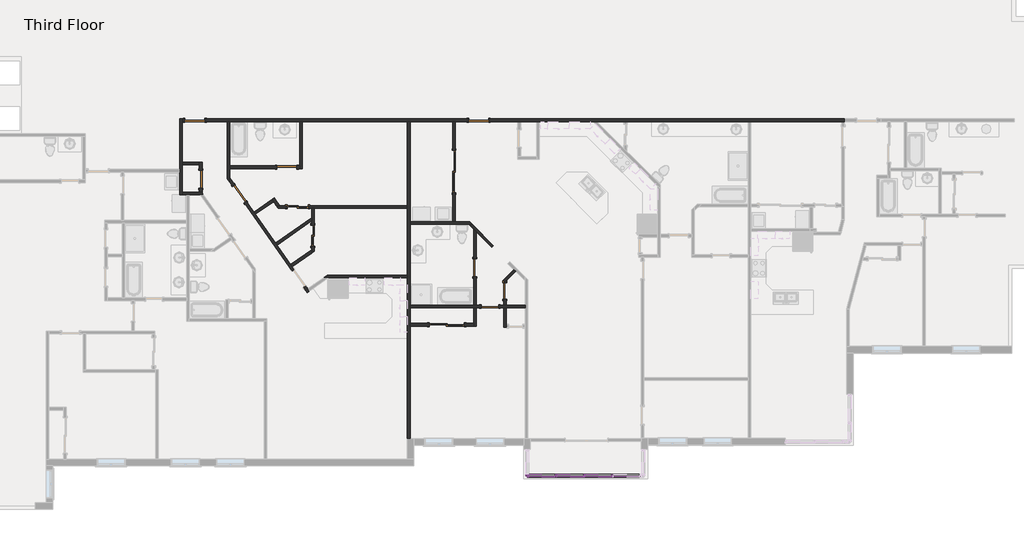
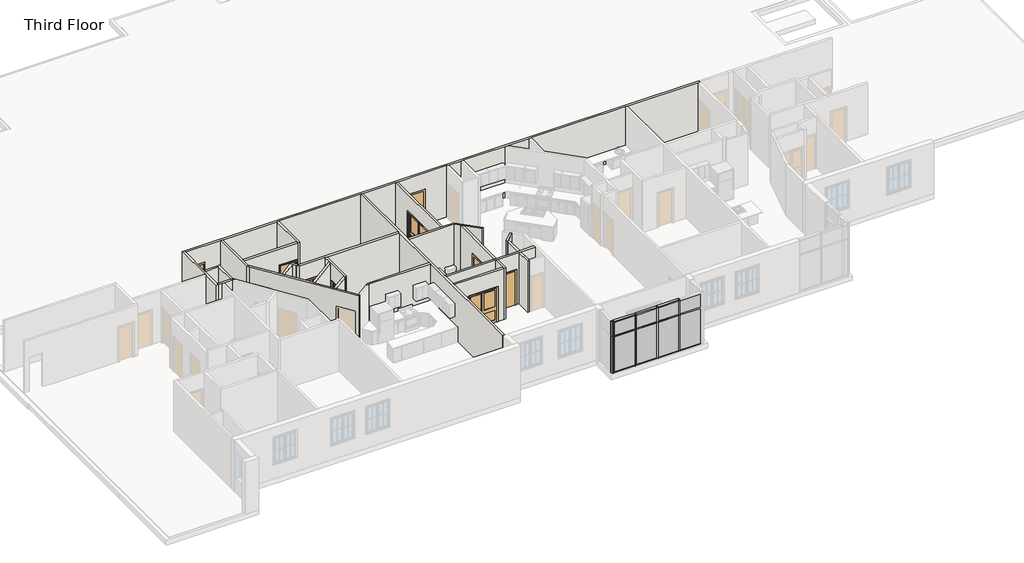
# One storey, part 3 of 17: 27 walls, 20 members, 12 doors, 8 plates.
"""IFC4 building model written with IfcOpenShell, lengths in millimetres."""

from ifc_helpers import new_model, si_unit, frame, origin, place, context, project, spatial, polyline, outline, extrude, faceted_brep, transform, mapped, element, save
from components import door_f2586ccf, door_d8f5dbb5, door_f2b275c1, door_825b8444, door_c29894e6, door_88c23cd7, door_2e7ec8be, door_caaf2a11, rectangular_mullion_rectangular_mullion_1_fa3625a1, rectangular_mullion_rectangular_mullion_1_7cbf0b94, rectangular_mullion_rectangular_mullion_1_6186cc23, rectangular_mullion_rectangular_mullion_1_049a2e78, rectangular_mullion_rectangular_mullion_1_a50b3cda, rectangular_mullion_rectangular_mullion_1_5cd4c5ac, system_panel_glazed_0ed27d1d, system_panel_glazed_134bacdb

model = new_model("IFC4")

# Units and contexts
model_context = context("Model", 3, world=origin())
ifc_project = project(units=[si_unit("LENGTHUNIT", "METRE", prefix="MILLI")], contexts=[model_context])

# Site, building, storey
site = spatial("IfcSite", under=ifc_project)
building = spatial("IfcBuilding", under=site)
storey = spatial("IfcBuildingStorey", under=building, Name="Third Floor", Elevation=6096.0)

# Doors
placement = place(None, origin())
door_shape = door_f2586ccf(model_context)
element("IfcDoor", 1, ObjectType="Single-Flush : 28\" x 80\"", at=placement, inside=storey, context=model_context, shape_type="MappedRepresentation", body=[
    mapped(door_shape, transform((31589.3040357, -12033.9392565, 6096.0), x_axis=(0.0, 1.0, 0.0), y_axis=(-1.0, 0.0, 0.0), z_axis=(0.0, 0.0, 1.0))),
])
door_2_shape = door_d8f5dbb5(model_context)
element("IfcDoor", 2, ObjectType="Single-Flush : 30\" x 80\"", at=placement, inside=storey, context=model_context, shape_type="MappedRepresentation", body=[
    mapped(door_2_shape, transform((18439.6602461, -7206.7219726, 6096.0), x_axis=(0.0, -1.0, 0.0), y_axis=(1.0, 0.0, 0.0), z_axis=(0.0, 0.0, 1.0))),
])
door_3_shape = door_f2b275c1(model_context)
element("IfcDoor", 3, ObjectType="Single-Flush : 30\" x 80\"", at=placement, inside=storey, context=model_context, shape_type="MappedRepresentation", body=[
    mapped(door_3_shape, transform((30941.6040357, -12707.1736347, 6096.0), x_axis=(1.0, 0.0, 0.0), y_axis=(0.0, 1.0, 0.0), z_axis=(0.0, 0.0, 1.0))),
])
element("IfcDoor", 4, ObjectType="Single-Flush : 30\" x 80\"", at=placement, inside=storey, context=model_context, shape_type="MappedRepresentation", body=[
    mapped(door_3_shape, transform((30293.9040357, -11030.7736347, 6096.0), x_axis=(0.0, -1.0, 0.0), y_axis=(1.0, 0.0, 0.0), z_axis=(0.0, 0.0, 1.0))),
])
door_4_shape = door_825b8444(model_context)
element("IfcDoor", 5, ObjectType="Single-Flush : 34\" x 80\"", at=placement, inside=storey, context=model_context, shape_type="MappedRepresentation", body=[
    mapped(door_4_shape, transform((20114.7748093, -7834.753233, 6096.0), x_axis=(-0.5735764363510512, 0.8191520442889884, 0.0), y_axis=(-0.8191520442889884, -0.5735764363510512, 0.0), z_axis=(0.0, 0.0, 1.0))),
])
door_5_shape = door_c29894e6(model_context)
element("IfcDoor", 6, ObjectType="Single-Flush : 34\" x 80\"", at=placement, inside=storey, context=model_context, shape_type="MappedRepresentation", body=[
    mapped(door_5_shape, transform((18188.1416991, -4651.3917963, 6096.0), x_axis=(-1.0, 0.0, 0.0), y_axis=(0.0, -1.0, 0.0), z_axis=(0.0, 0.0, 1.0))),
])
element("IfcDoor", 7, ObjectType="Single-Flush : 34\" x 80\"", at=placement, inside=storey, context=model_context, shape_type="MappedRepresentation", body=[
    mapped(door_5_shape, transform((22162.0691338, -6683.3917963, 6096.0), x_axis=(1.0, 0.0, 0.0), y_axis=(0.0, 1.0, 0.0), z_axis=(0.0, 0.0, 1.0))),
])
element("IfcDoor", 8, ObjectType="Single-Flush : 34\" x 80\"", at=placement, inside=storey, context=model_context, shape_type="MappedRepresentation", body=[
    mapped(door_5_shape, transform((30456.3297218, -4651.3917963, 6096.0), x_axis=(-1.0, 0.0, 0.0), y_axis=(0.0, -1.0, 0.0), z_axis=(0.0, 0.0, 1.0))),
])
door_6_shape = door_88c23cd7(model_context)
element("IfcDoor", 9, ObjectType="Sliding-Closet : 36\" x 80\"", at=placement, inside=storey, context=model_context, shape_type="MappedRepresentation", body=[
    mapped(door_6_shape, transform((23160.2196169, -9642.0427038, 6096.0), x_axis=(0.0, -1.0, 0.0), y_axis=(1.0, 0.0, 0.0), z_axis=(0.0, 0.0, 1.0))),
])
element("IfcDoor", 10, ObjectType="Sliding-Closet : 36\" x 80\"", at=placement, inside=storey, context=model_context, shape_type="MappedRepresentation", body=[
    mapped(door_6_shape, transform((22626.8196169, -8270.4427038, 6096.0), x_axis=(-1.0, 0.0, 0.0), y_axis=(0.0, -1.0, 0.0), z_axis=(0.0, 0.0, 1.0))),
])
door_7_shape = door_2e7ec8be(model_context)
element("IfcDoor", 11, ObjectType="Sliding-Closet : 60\" x 80\"", at=placement, inside=storey, context=model_context, shape_type="MappedRepresentation", body=[
    mapped(door_7_shape, transform((29074.7040357, -13371.9064679, 6096.0), x_axis=(-1.0, 0.0, 0.0), y_axis=(0.0, -1.0, 0.0), z_axis=(0.0, 0.0, 1.0))),
])
door_8_shape = door_caaf2a11(model_context)
element("IfcDoor", 12, ObjectType="Sliding-Closet : 72\" x 80\"", at=placement, inside=storey, context=model_context, shape_type="MappedRepresentation", body=[
    mapped(door_8_shape, transform((29262.5297218, -6874.7901817, 6096.0), x_axis=(0.0, -1.0, 0.0), y_axis=(1.0, 0.0, 0.0), z_axis=(0.0, 0.0, 1.0))),
])

# Members
rectangular_mullion_rectangular_mullion_1_shape = rectangular_mullion_rectangular_mullion_1_fa3625a1(model_context)
element("IfcMember", 13, ObjectType="Rectangular Mullion : Rectangular Mullion 1", at=placement, inside=storey, context=model_context, shape_type="MappedRepresentation", body=[
    mapped(rectangular_mullion_rectangular_mullion_1_shape, transform((33772.8620392, -20021.7015972, 9144.0), x_axis=(0.0, 0.0, 1.0), y_axis=(0.0, -1.0, 0.0), z_axis=(1.0, 0.0, 0.0))),
])
element("IfcMember", 14, ObjectType="Rectangular Mullion : Rectangular Mullion 1", at=placement, inside=storey, context=model_context, shape_type="MappedRepresentation", body=[
    mapped(rectangular_mullion_rectangular_mullion_1_shape, transform((34992.0620392, -20021.7015972, 9144.0), x_axis=(0.0, 0.0, 1.0), y_axis=(0.0, -1.0, 0.0), z_axis=(1.0, 0.0, 0.0))),
])
element("IfcMember", 15, ObjectType="Rectangular Mullion : Rectangular Mullion 1", at=placement, inside=storey, context=model_context, shape_type="MappedRepresentation", body=[
    mapped(rectangular_mullion_rectangular_mullion_1_shape, transform((36211.2620392, -20021.7015972, 9144.0), x_axis=(0.0, 0.0, 1.0), y_axis=(0.0, -1.0, 0.0), z_axis=(1.0, 0.0, 0.0))),
])
element("IfcMember", 16, ObjectType="Rectangular Mullion : Rectangular Mullion 1", at=placement, inside=storey, context=model_context, shape_type="MappedRepresentation", body=[
    mapped(rectangular_mullion_rectangular_mullion_1_shape, transform((32617.1620389, -20021.7015972, 6096.0), x_axis=(0.0, 0.0, -1.0), y_axis=(0.0, -1.0, 0.0), z_axis=(-1.0, 0.0, 0.0))),
])
element("IfcMember", 17, ObjectType="Rectangular Mullion : Rectangular Mullion 1", at=placement, inside=storey, context=model_context, shape_type="MappedRepresentation", body=[
    mapped(rectangular_mullion_rectangular_mullion_1_shape, transform((33836.3620392, -20021.7015972, 6096.0), x_axis=(0.0, 0.0, -1.0), y_axis=(0.0, -1.0, 0.0), z_axis=(-1.0, 0.0, 0.0))),
])
element("IfcMember", 18, ObjectType="Rectangular Mullion : Rectangular Mullion 1", at=placement, inside=storey, context=model_context, shape_type="MappedRepresentation", body=[
    mapped(rectangular_mullion_rectangular_mullion_1_shape, transform((35055.5620392, -20021.7015972, 6096.0), x_axis=(0.0, 0.0, -1.0), y_axis=(0.0, -1.0, 0.0), z_axis=(-1.0, 0.0, 0.0))),
])
element("IfcMember", 19, ObjectType="Rectangular Mullion : Rectangular Mullion 1", at=placement, inside=storey, context=model_context, shape_type="MappedRepresentation", body=[
    mapped(rectangular_mullion_rectangular_mullion_1_shape, transform((36274.7620392, -20021.7015972, 6096.0), x_axis=(0.0, 0.0, -1.0), y_axis=(0.0, -1.0, 0.0), z_axis=(-1.0, 0.0, 0.0))),
])
rectangular_mullion_rectangular_mullion_1_2_shape = rectangular_mullion_rectangular_mullion_1_7cbf0b94(model_context)
element("IfcMember", 20, ObjectType="Rectangular Mullion : Rectangular Mullion 1", at=placement, inside=storey, context=model_context, shape_type="MappedRepresentation", body=[
    mapped(rectangular_mullion_rectangular_mullion_1_2_shape, transform((33772.8620392, -20021.7015972, 8261.35), x_axis=(0.0, 0.0, 1.0), y_axis=(0.0, -1.0, 0.0), z_axis=(1.0, 0.0, 0.0))),
])
element("IfcMember", 21, ObjectType="Rectangular Mullion : Rectangular Mullion 1", at=placement, inside=storey, context=model_context, shape_type="MappedRepresentation", body=[
    mapped(rectangular_mullion_rectangular_mullion_1_2_shape, transform((34992.0620392, -20021.7015972, 8261.35), x_axis=(0.0, 0.0, 1.0), y_axis=(0.0, -1.0, 0.0), z_axis=(1.0, 0.0, 0.0))),
])
element("IfcMember", 22, ObjectType="Rectangular Mullion : Rectangular Mullion 1", at=placement, inside=storey, context=model_context, shape_type="MappedRepresentation", body=[
    mapped(rectangular_mullion_rectangular_mullion_1_2_shape, transform((36211.2620392, -20021.7015972, 8261.35), x_axis=(0.0, 0.0, 1.0), y_axis=(0.0, -1.0, 0.0), z_axis=(1.0, 0.0, 0.0))),
])
rectangular_mullion_rectangular_mullion_1_3_shape = rectangular_mullion_rectangular_mullion_1_6186cc23(model_context)
element("IfcMember", 23, ObjectType="Rectangular Mullion : Rectangular Mullion 1", at=placement, inside=storey, context=model_context, shape_type="MappedRepresentation", body=[
    mapped(rectangular_mullion_rectangular_mullion_1_3_shape, transform((33804.6120392, -20021.7015972, 6096.0), x_axis=(1.0, 0.0, 0.0), y_axis=(0.0, -1.0, 0.0), z_axis=(0.0, 0.0, -1.0))),
])
element("IfcMember", 24, ObjectType="Rectangular Mullion : Rectangular Mullion 1", at=placement, inside=storey, context=model_context, shape_type="MappedRepresentation", body=[
    mapped(rectangular_mullion_rectangular_mullion_1_3_shape, transform((35023.8120392, -20021.7015972, 6096.0), x_axis=(1.0, 0.0, 0.0), y_axis=(0.0, -1.0, 0.0), z_axis=(0.0, 0.0, -1.0))),
])
element("IfcMember", 25, ObjectType="Rectangular Mullion : Rectangular Mullion 1", at=placement, inside=storey, context=model_context, shape_type="MappedRepresentation", body=[
    mapped(rectangular_mullion_rectangular_mullion_1_3_shape, transform((36243.0120392, -20021.7015972, 6096.0), x_axis=(1.0, 0.0, 0.0), y_axis=(0.0, -1.0, 0.0), z_axis=(0.0, 0.0, -1.0))),
])
rectangular_mullion_rectangular_mullion_1_4_shape = rectangular_mullion_rectangular_mullion_1_049a2e78(model_context)
element("IfcMember", 26, ObjectType="Rectangular Mullion : Rectangular Mullion 1", at=placement, inside=storey, context=model_context, shape_type="MappedRepresentation", body=[
    mapped(rectangular_mullion_rectangular_mullion_1_4_shape, transform((33804.6120392, -20021.7015972, 8261.35), x_axis=(1.0, 0.0, 0.0), y_axis=(0.0, -1.0, 0.0), z_axis=(0.0, 0.0, -1.0))),
])
element("IfcMember", 27, ObjectType="Rectangular Mullion : Rectangular Mullion 1", at=placement, inside=storey, context=model_context, shape_type="MappedRepresentation", body=[
    mapped(rectangular_mullion_rectangular_mullion_1_4_shape, transform((35023.8120392, -20021.7015972, 8261.35), x_axis=(1.0, 0.0, 0.0), y_axis=(0.0, -1.0, 0.0), z_axis=(0.0, 0.0, -1.0))),
])
element("IfcMember", 28, ObjectType="Rectangular Mullion : Rectangular Mullion 1", at=placement, inside=storey, context=model_context, shape_type="MappedRepresentation", body=[
    mapped(rectangular_mullion_rectangular_mullion_1_4_shape, transform((36243.0120392, -20021.7015972, 8261.35), x_axis=(1.0, 0.0, 0.0), y_axis=(0.0, -1.0, 0.0), z_axis=(0.0, 0.0, -1.0))),
])
rectangular_mullion_rectangular_mullion_1_5_shape = rectangular_mullion_rectangular_mullion_1_a50b3cda(model_context)
element("IfcMember", 29, ObjectType="Rectangular Mullion : Rectangular Mullion 1", at=placement, inside=storey, context=model_context, shape_type="MappedRepresentation", body=[
    mapped(rectangular_mullion_rectangular_mullion_1_5_shape, transform((32553.6620389, -20021.7015972, 6096.0), x_axis=(0.0, -1.0, 0.0), y_axis=(-1.0, 0.0, 0.0), z_axis=(0.0, 0.0, -1.0))),
])
rectangular_mullion_rectangular_mullion_1_6_shape = rectangular_mullion_rectangular_mullion_1_5cd4c5ac(model_context)
element("IfcMember", 30, ObjectType="Rectangular Mullion : Rectangular Mullion 1", at=placement, inside=storey, context=model_context, shape_type="MappedRepresentation", body=[
    mapped(rectangular_mullion_rectangular_mullion_1_6_shape, transform((32553.6620389, -20021.7015972, 8261.35), x_axis=(0.0, -1.0, 0.0), y_axis=(-1.0, 0.0, 0.0), z_axis=(0.0, 0.0, -1.0))),
])
element("IfcMember", 31, ObjectType="Rectangular Mullion : Rectangular Mullion 1", at=placement, inside=storey, context=model_context, shape_type="MappedRepresentation", body=[
    mapped(rectangular_mullion_rectangular_mullion_1_6_shape, transform((32553.6620389, -20021.7015972, 9144.0), x_axis=(-1.0, 0.0, 0.0), y_axis=(0.0, -1.0, 0.0), z_axis=(0.0, 0.0, 1.0))),
])
element("IfcMember", 32, ObjectType="Rectangular Mullion : Rectangular Mullion 1", at=placement, inside=storey, context=model_context, shape_type="MappedRepresentation", body=[
    mapped(rectangular_mullion_rectangular_mullion_1_5_shape, transform((32553.6620389, -20021.7015972, 8261.35), x_axis=(-1.0, 0.0, 0.0), y_axis=(0.0, -1.0, 0.0), z_axis=(0.0, 0.0, 1.0))),
])

# Plates
system_panel_glazed_shape = system_panel_glazed_0ed27d1d(model_context)
element("IfcPlate", 33, ObjectType="System Panel : Glazed", at=placement, inside=storey, context=model_context, shape_type="MappedRepresentation", body=[
    mapped(system_panel_glazed_shape, transform((33195.012039, -20021.7015972, 6159.5), x_axis=(1.0, 0.0, 0.0), y_axis=(0.0, 1.0, 0.0), z_axis=(0.0, 0.0, 1.0))),
])
element("IfcPlate", 34, ObjectType="System Panel : Glazed", at=placement, inside=storey, context=model_context, shape_type="MappedRepresentation", body=[
    mapped(system_panel_glazed_shape, transform((34414.2120392, -20021.7015972, 6159.5), x_axis=(1.0, 0.0, 0.0), y_axis=(0.0, 1.0, 0.0), z_axis=(0.0, 0.0, 1.0))),
])
element("IfcPlate", 35, ObjectType="System Panel : Glazed", at=placement, inside=storey, context=model_context, shape_type="MappedRepresentation", body=[
    mapped(system_panel_glazed_shape, transform((35633.4120392, -20021.7015972, 6159.5), x_axis=(1.0, 0.0, 0.0), y_axis=(0.0, 1.0, 0.0), z_axis=(0.0, 0.0, 1.0))),
])
element("IfcPlate", 36, ObjectType="System Panel : Glazed", at=placement, inside=storey, context=model_context, shape_type="MappedRepresentation", body=[
    mapped(system_panel_glazed_shape, transform((36852.6120392, -20021.7015972, 6159.5), x_axis=(1.0, 0.0, 0.0), y_axis=(0.0, 1.0, 0.0), z_axis=(0.0, 0.0, 1.0))),
])
system_panel_glazed_2_shape = system_panel_glazed_134bacdb(model_context)
element("IfcPlate", 37, ObjectType="System Panel : Glazed", at=placement, inside=storey, context=model_context, shape_type="MappedRepresentation", body=[
    mapped(system_panel_glazed_2_shape, transform((33195.012039, -20021.7015972, 8293.1), x_axis=(1.0, 0.0, 0.0), y_axis=(0.0, 1.0, 0.0), z_axis=(0.0, 0.0, 1.0))),
])
element("IfcPlate", 38, ObjectType="System Panel : Glazed", at=placement, inside=storey, context=model_context, shape_type="MappedRepresentation", body=[
    mapped(system_panel_glazed_2_shape, transform((34414.2120392, -20021.7015972, 8293.1), x_axis=(1.0, 0.0, 0.0), y_axis=(0.0, 1.0, 0.0), z_axis=(0.0, 0.0, 1.0))),
])
element("IfcPlate", 39, ObjectType="System Panel : Glazed", at=placement, inside=storey, context=model_context, shape_type="MappedRepresentation", body=[
    mapped(system_panel_glazed_2_shape, transform((35633.4120392, -20021.7015972, 8293.1), x_axis=(1.0, 0.0, 0.0), y_axis=(0.0, 1.0, 0.0), z_axis=(0.0, 0.0, 1.0))),
])
element("IfcPlate", 40, ObjectType="System Panel : Glazed", at=placement, inside=storey, context=model_context, shape_type="MappedRepresentation", body=[
    mapped(system_panel_glazed_2_shape, transform((36852.6120392, -20021.7015972, 8293.1), x_axis=(1.0, 0.0, 0.0), y_axis=(0.0, 1.0, 0.0), z_axis=(0.0, 0.0, 1.0))),
])

# Walls
element("IfcWall", 41, ObjectType="Interior - 4 1/2\" Partition", at=placement, inside=storey, context=model_context, shape_type="Brep", body=[
    faceted_brep([(17521.3916991, -4594.2417963, 6096.0), (17521.3916991, -6779.3712391, 6096.0), (17521.3916991, -6893.6712391, 6096.0), (17521.3916991, -7873.4719726, 6096.0), (17521.3916991, -7873.4719726, 9144.0), (17521.3916991, -6893.6712391, 9144.0), (17521.3916991, -6779.3712391, 9144.0), (17521.3916991, -4594.2417963, 9144.0), (17635.6916991, -4594.2417963, 6096.0), (17635.6916991, -4594.2417963, 9144.0), (17635.6916991, -4708.5417963, 9144.0), (17635.6916991, -6473.8417963, 9144.0), (17635.6916991, -6588.1417963, 9144.0), (17635.6916991, -7759.1719726, 9144.0), (17635.6916991, -7873.4719726, 9144.0), (17635.6916991, -7873.4719726, 6096.0), (17635.6916991, -7759.1719726, 6096.0), (17635.6916991, -6588.1417963, 6096.0), (17635.6916991, -6473.8417963, 6096.0), (17635.6916991, -4708.5417963, 6096.0)], [[[0, 1, 2, 3, 4, 5, 6, 7]], [[8, 9, 10, 11, 12, 13, 14, 15, 16, 17, 18, 19]], [[3, 2, 1, 0, 8, 19, 18, 17, 16, 15]], [[7, 6, 5, 4, 14, 13, 12, 11, 10, 9]], [[0, 7, 9, 8]], [[4, 3, 15, 14]]]),
])
element("IfcWall", 42, ObjectType="Interior - 4 1/2\" Partition", at=placement, inside=storey, context=model_context, shape_type="Brep", body=[
    faceted_brep([(17635.6916991, -7873.4719726, 6096.0), (17837.7191338, -7873.4719726, 6096.0), (17952.0191338, -7873.4719726, 6096.0), (18417.502921, -7873.4719726, 6096.0), (18557.0374565, -7873.4719726, 6096.0), (18557.0374565, -7873.4719726, 9144.0), (18417.502921, -7873.4719726, 9144.0), (17952.0191338, -7873.4719726, 9144.0), (17837.7191338, -7873.4719726, 9144.0), (17635.6916991, -7873.4719726, 9144.0), (17635.6916991, -7759.1719726, 6096.0), (17635.6916991, -7759.1719726, 9144.0), (18382.5102461, -7759.1719726, 9144.0), (18477.0037349, -7759.1719726, 9144.0), (18477.0037349, -7759.1719726, 6096.0), (18382.5102461, -7759.1719726, 6096.0), (18496.8102461, -7787.4586021, 6096.0), (18496.8102461, -7787.4586021, 9144.0)], [[[0, 1, 2, 3, 4, 5, 6, 7, 8, 9]], [[10, 11, 12, 13, 14, 15]], [[4, 3, 2, 1, 0, 10, 15, 14, 16]], [[9, 8, 7, 6, 5, 17, 13, 12, 11]], [[5, 4, 16, 14, 13, 17]], [[0, 9, 11, 10]]]),
])
element("IfcWall", 43, ObjectType="Interior - 4 1/2\" Partition", at=placement, inside=storey, context=model_context, shape_type="Brep", body=[
    faceted_brep([(18619.9416991, -4708.5417963, 6096.0), (19583.8594272, -4708.5417963, 6096.0), (19698.1594272, -4708.5417963, 6096.0), (22714.5191338, -4708.5417963, 6096.0), (22828.8191338, -4708.5417963, 6096.0), (27373.7365862, -4708.5417963, 6096.0), (27488.0365862, -4708.5417963, 6096.0), (29332.3797218, -4708.5417963, 6096.0), (29446.6797218, -4708.5417963, 6096.0), (30024.5297218, -4708.5417963, 6096.0), (30024.5297218, -4708.5417963, 8128.0), (30888.1297218, -4708.5417963, 8128.0), (30888.1297218, -4708.5417963, 6096.0), (32155.9966966, -4708.5417963, 6096.0), (32270.2966966, -4708.5417963, 6096.0), (32968.7966966, -4708.5417963, 6096.0), (33083.0966966, -4708.5417963, 6096.0), (35406.7151666, -4708.5417963, 6096.0), (35568.3597768, -4708.5417963, 6096.0), (36748.8505062, -4708.5417963, 6096.0), (36863.1505062, -4708.5417963, 6096.0), (42109.9470292, -4708.5417963, 6096.0), (42224.2470292, -4708.5417963, 6096.0), (46162.3050668, -4708.5417963, 6096.0), (46276.6050668, -4708.5417963, 6096.0), (46276.6050668, -4708.5417963, 9144.0), (46162.3050668, -4708.5417963, 9144.0), (42224.2470292, -4708.5417963, 9144.0), (42109.9470292, -4708.5417963, 9144.0), (36863.1505062, -4708.5417963, 9144.0), (36748.8505062, -4708.5417963, 9144.0), (35568.3597768, -4708.5417963, 9144.0), (35406.7151666, -4708.5417963, 9144.0), (33083.0966966, -4708.5417963, 9144.0), (32968.7966966, -4708.5417963, 9144.0), (32270.2966966, -4708.5417963, 9144.0), (32155.9966966, -4708.5417963, 9144.0), (29446.6797218, -4708.5417963, 9144.0), (29332.3797218, -4708.5417963, 9144.0), (27488.0365862, -4708.5417963, 9144.0), (27373.7365862, -4708.5417963, 9144.0), (22828.8191338, -4708.5417963, 9144.0), (22714.5191338, -4708.5417963, 9144.0), (19698.1594272, -4708.5417963, 9144.0), (19583.8594272, -4708.5417963, 9144.0), (17635.6916991, -4708.5417963, 9144.0), (17635.6916991, -4708.5417963, 6096.0), (17756.3416991, -4708.5417963, 6096.0), (17756.3416991, -4708.5417963, 8128.0), (18619.9416991, -4708.5417963, 8128.0), (30024.5297218, -4594.2417963, 8128.0), (30024.5297218, -4594.2417963, 6096.0), (18619.9416991, -4594.2417963, 6096.0), (18619.9416991, -4594.2417963, 8128.0), (17756.3416991, -4594.2417963, 8128.0), (17756.3416991, -4594.2417963, 6096.0), (17635.6916991, -4594.2417963, 6096.0), (17635.6916991, -4594.2417963, 9144.0), (46276.6050668, -4594.2417963, 9144.0), (46276.6050668, -4594.2417963, 6096.0), (30888.1297218, -4594.2417963, 6096.0), (30888.1297218, -4594.2417963, 8128.0)], [[[0, 1, 2, 3, 4, 5, 6, 7, 8, 9, 10, 11, 12, 13, 14, 15, 16, 17, 18, 19, 20, 21, 22, 23, 24, 25, 26, 27, 28, 29, 30, 31, 32, 33, 34, 35, 36, 37, 38, 39, 40, 41, 42, 43, 44, 45, 46, 47, 48, 49]], [[50, 51, 52, 53, 54, 55, 56, 57, 58, 59, 60, 61]], [[56, 55, 47, 46]], [[60, 59, 24, 23, 22, 21, 20, 19, 18, 17, 16, 15, 14, 13, 12]], [[52, 51, 9, 8, 7, 6, 5, 4, 3, 2, 1, 0]], [[45, 44, 43, 42, 41, 40, 39, 38, 37, 36, 35, 34, 33, 32, 31, 30, 29, 28, 27, 26, 25, 58, 57]], [[48, 47, 55, 54]], [[49, 48, 54, 53]], [[0, 49, 53, 52]], [[10, 9, 51, 50]], [[11, 10, 50, 61]], [[12, 11, 61, 60]], [[25, 24, 59, 58]], [[46, 45, 57, 56]]]),
])
element("IfcWall", 44, ObjectType="Interior - 4 1/2\" Partition", at=placement, inside=storey, context=model_context, shape_type="Brep", body=[
    faceted_brep([(27373.7365862, -4708.5417963, 6096.0), (27373.7365862, -8340.2927038, 6096.0), (27373.7365862, -8454.5927038, 6096.0), (27373.7365862, -11354.6236347, 6096.0), (27373.7365862, -11468.9236347, 6096.0), (27373.7365862, -18426.2691587, 6096.0), (27373.7365862, -18426.2691587, 9144.0), (27373.7365862, -11468.9236347, 9144.0), (27373.7365862, -11354.6236347, 9144.0), (27373.7365862, -8454.5927038, 9144.0), (27373.7365862, -8340.2927038, 9144.0), (27373.7365862, -4708.5417963, 9144.0), (27488.0365862, -4708.5417963, 6096.0), (27488.0365862, -4708.5417963, 9144.0), (27488.0365862, -9041.0385671, 9144.0), (27488.0365862, -9155.3385671, 9144.0), (27488.0365862, -12650.0236347, 9144.0), (27488.0365862, -12764.3236347, 9144.0), (27488.0365862, -13441.7564679, 9144.0), (27488.0365862, -13556.0564679, 9144.0), (27488.0365862, -18426.2691587, 9144.0), (27488.0365862, -18426.2691587, 6096.0), (27488.0365862, -13556.0564679, 6096.0), (27488.0365862, -13441.7564679, 6096.0), (27488.0365862, -12764.3236347, 6096.0), (27488.0365862, -12650.0236347, 6096.0), (27488.0365862, -9155.3385671, 6096.0), (27488.0365862, -9041.0385671, 6096.0)], [[[0, 1, 2, 3, 4, 5, 6, 7, 8, 9, 10, 11]], [[12, 13, 14, 15, 16, 17, 18, 19, 20, 21, 22, 23, 24, 25, 26, 27]], [[5, 4, 3, 2, 1, 0, 12, 27, 26, 25, 24, 23, 22, 21]], [[11, 10, 9, 8, 7, 6, 20, 19, 18, 17, 16, 15, 14, 13]], [[0, 11, 13, 12]], [[6, 5, 21, 20]]]),
])
element("IfcWall", 45, ObjectType="Interior - 4 1/2\" Partition", at=placement, inside=storey, context=model_context, shape_type="Brep", body=[
    faceted_brep([(22714.5191338, -4708.5417963, 6096.0), (22714.5191338, -6626.2417963, 6096.0), (22714.5191338, -6740.5417963, 6096.0), (22714.5191338, -6740.5417963, 9144.0), (22714.5191338, -6626.2417963, 9144.0), (22714.5191338, -4708.5417963, 9144.0), (22828.8191338, -4708.5417963, 6096.0), (22828.8191338, -4708.5417963, 9144.0), (22828.8191338, -6740.5417963, 9144.0), (22828.8191338, -6740.5417963, 6096.0)], [[[0, 1, 2, 3, 4, 5]], [[6, 7, 8, 9]], [[2, 1, 0, 6, 9]], [[5, 4, 3, 8, 7]], [[3, 2, 9, 8]], [[0, 5, 7, 6]]]),
])
element("IfcWall", 46, ObjectType="Interior - 4 1/2\" Partition", at=placement, inside=storey, context=model_context, shape_type="SweptSolid", body=[
    extrude(outline(polyline([(8128.0, 22593.8691338), (6096.0, 22593.8691338), (6096.0, 22714.5191338), (9144.0, 22714.5191338), (9144.0, 19698.1594272), (6096.0, 19698.1594272), (6096.0, 21730.2691338), (8128.0, 21730.2691338), (8128.0, 22593.8691338)])), frame((0.0, -6740.5417963, 0.0), z_axis=(0.0, 1.0, 0.0), x_axis=(0.0, 0.0, 1.0)), (0.0, 0.0, 1.0), 114.3),
])
element("IfcWall", 47, ObjectType="Interior - 4 1/2\" Partition", at=placement, inside=storey, context=model_context, shape_type="Brep", body=[
    faceted_brep([(19698.1594272, -7339.4027898, 6096.0), (19698.1594272, -7140.1268211, 6096.0), (19698.1594272, -6740.5417963, 6096.0), (19698.1594272, -6626.2417963, 6096.0), (19698.1594272, -4708.5417963, 6096.0), (19698.1594272, -4708.5417963, 9144.0), (19698.1594272, -6626.2417963, 9144.0), (19698.1594272, -6740.5417963, 9144.0), (19698.1594272, -7140.1268211, 9144.0), (19698.1594272, -7339.4027898, 9144.0), (19583.8594272, -7176.1654727, 6096.0), (19583.8594272, -7176.1654727, 9144.0), (19583.8594272, -4708.5417963, 9144.0), (19583.8594272, -4708.5417963, 6096.0)], [[[0, 1, 2, 3, 4, 5, 6, 7, 8, 9]], [[10, 11, 12, 13]], [[4, 3, 2, 1, 0, 10, 13]], [[9, 8, 7, 6, 5, 12, 11]], [[0, 9, 11, 10]], [[5, 4, 13, 12]]]),
])
element("IfcWall", 48, ObjectType="Interior - 4 1/2\" Partition", at=placement, inside=storey, context=model_context, shape_type="Brep", body=[
    faceted_brep([(22169.6196169, -8340.2927038, 8128.0), (22169.6196169, -8340.2927038, 6096.0), (21847.2369931, -8340.2927038, 6096.0), (21707.7024576, -8340.2927038, 6096.0), (21707.7024576, -8340.2927038, 9144.0), (21847.2369931, -8340.2927038, 9144.0), (27373.7365862, -8340.2927038, 9144.0), (27373.7365862, -8340.2927038, 6096.0), (23084.0196169, -8340.2927038, 6096.0), (23084.0196169, -8340.2927038, 8128.0), (21787.7361792, -8454.5927038, 6096.0), (22169.6196169, -8454.5927038, 6096.0), (22169.6196169, -8454.5927038, 8128.0), (23084.0196169, -8454.5927038, 8128.0), (23084.0196169, -8454.5927038, 6096.0), (23230.0696169, -8454.5927038, 6096.0), (23344.3696169, -8454.5927038, 6096.0), (27373.7365862, -8454.5927038, 6096.0), (27373.7365862, -8454.5927038, 9144.0), (23344.3696169, -8454.5927038, 9144.0), (23230.0696169, -8454.5927038, 9144.0), (21787.7361792, -8454.5927038, 9144.0)], [[[0, 1, 2, 3, 4, 5, 6, 7, 8, 9]], [[10, 11, 12, 13, 14, 15, 16, 17, 18, 19, 20, 21]], [[8, 7, 17, 16, 15, 14]], [[3, 2, 1, 11, 10]], [[6, 5, 4, 21, 20, 19, 18]], [[14, 13, 9, 8]], [[12, 11, 1, 0]], [[13, 12, 0, 9]], [[4, 3, 10, 21]], [[7, 6, 18, 17]]]),
])
element("IfcWall", 49, ObjectType="Interior - 4 1/2\" Partition", at=placement, inside=storey, context=model_context, shape_type="Brep", body=[
    faceted_brep([(21847.2369931, -8340.2927038, 6096.0), (21618.8599772, -8014.1365238, 6096.0), (21618.8599772, -8014.1365238, 9144.0), (21847.2369931, -8340.2927038, 9144.0), (21707.7024576, -8340.2927038, 6096.0), (21707.7024576, -8340.2927038, 9144.0), (21590.7906853, -8173.3253892, 9144.0), (21525.2308986, -8079.6963105, 9144.0), (21525.2308986, -8079.6963105, 6096.0), (21590.7906853, -8173.3253892, 6096.0)], [[[0, 1, 2, 3]], [[4, 5, 6, 7, 8, 9]], [[1, 0, 4, 9, 8]], [[3, 2, 7, 6, 5]], [[2, 1, 8, 7]], [[0, 3, 5, 4]]]),
])
element("IfcWall", 50, ObjectType="Interior - 4 1/2\" Partition", at=placement, inside=storey, context=model_context, shape_type="SweptSolid", body=[
    extrude(outline(polyline([(20740.7007976, -8629.0302012), (21525.2308986, -8079.6963105), (21590.7906853, -8173.3253892), (20806.2605843, -8722.6592798), (20740.7007976, -8629.0302012)])), frame((0.0, 0.0, 6096.0), z_axis=(0.0, 0.0, 1.0), x_axis=(1.0, 0.0, 0.0)), (0.0, 0.0, 1.0), 3048.0),
])
element("IfcWall", 51, ObjectType="Interior - 4 1/2\" Partition", at=placement, inside=storey, context=model_context, shape_type="Brep", body=[
    faceted_brep([(22880.7389864, -11884.5974436, 8128.0), (22880.7389864, -11884.5974436, 6096.0), (23036.0836883, -12106.45267, 6096.0), (23036.0836883, -12106.45267, 9144.0), (19698.1594272, -7339.4027898, 9144.0), (19698.1594272, -7339.4027898, 6096.0), (19820.2899648, -7513.8232736, 6096.0), (19820.2899648, -7513.8232736, 8128.0), (20315.6305752, -8221.2429791, 8128.0), (20315.6305752, -8221.2429791, 6096.0), (22385.398376, -11177.1777382, 6096.0), (22385.398376, -11177.1777382, 8128.0), (23129.712767, -12040.8928833, 6096.0), (23064.1529803, -11947.2638046, 6096.0), (22974.3680651, -11819.0376569, 6096.0), (22974.3680651, -11819.0376569, 8128.0), (22479.0274547, -11111.6179515, 8128.0), (22479.0274547, -11111.6179515, 6096.0), (22389.2425394, -10983.3918038, 6096.0), (22323.6827528, -10889.7627251, 6096.0), (21738.045474, -10053.3860128, 6096.0), (21672.4856873, -9959.7569341, 6096.0), (20806.2605843, -8722.6592798, 6096.0), (20740.7007976, -8629.0302012, 6096.0), (20409.2596539, -8155.6831924, 6096.0), (20409.2596539, -8155.6831924, 8128.0), (19913.9190434, -7448.2634869, 8128.0), (19913.9190434, -7448.2634869, 6096.0), (19698.1594272, -7140.1268211, 6096.0), (19698.1594272, -7140.1268211, 9144.0), (20740.7007976, -8629.0302012, 9144.0), (20806.2605843, -8722.6592798, 9144.0), (21672.4856873, -9959.7569341, 9144.0), (21738.045474, -10053.3860128, 9144.0), (22323.6827528, -10889.7627251, 9144.0), (22389.2425394, -10983.3918038, 9144.0), (23064.1529803, -11947.2638046, 9144.0), (23129.712767, -12040.8928833, 9144.0)], [[[0, 1, 2, 3, 4, 5, 6, 7, 8, 9, 10, 11]], [[12, 13, 14, 15, 16, 17, 18, 19, 20, 21, 22, 23, 24, 25, 26, 27, 28, 29, 30, 31, 32, 33, 34, 35, 36, 37]], [[28, 27, 6, 5]], [[10, 9, 24, 23, 22, 21, 20, 19, 18, 17]], [[2, 1, 14, 13, 12]], [[4, 3, 37, 36, 35, 34, 33, 32, 31, 30, 29]], [[7, 6, 27, 26]], [[8, 7, 26, 25]], [[9, 8, 25, 24]], [[15, 14, 1, 0]], [[16, 15, 0, 11]], [[17, 16, 11, 10]], [[3, 2, 12, 37]], [[5, 4, 29, 28]]]),
])
element("IfcWall", 52, ObjectType="Interior - 4 1/2\" Partition", at=placement, inside=storey, context=model_context, shape_type="SweptSolid", body=[
    extrude(outline(polyline([(23230.0696169, -9008.6594608), (21738.045474, -10053.3860128), (21672.4856873, -9959.7569341), (23230.0696169, -8869.1249253), (23230.0696169, -9008.6594608)])), frame((0.0, 0.0, 6096.0), z_axis=(0.0, 0.0, 1.0), x_axis=(1.0, 0.0, 0.0)), (0.0, 0.0, 1.0), 3048.0),
])
element("IfcWall", 53, ObjectType="Interior - 4 1/2\" Partition", at=placement, inside=storey, context=model_context, shape_type="Brep", body=[
    faceted_brep([(23230.0696169, -10099.2427038, 8128.0), (23230.0696169, -10099.2427038, 6096.0), (23230.0696169, -10255.1038104, 6096.0), (23230.0696169, -10394.6383458, 6096.0), (23230.0696169, -10394.6383458, 9144.0), (23230.0696169, -10255.1038104, 9144.0), (23230.0696169, -9008.6594608, 9144.0), (23230.0696169, -8869.1249253, 9144.0), (23230.0696169, -8454.5927038, 9144.0), (23230.0696169, -8454.5927038, 6096.0), (23230.0696169, -8869.1249253, 6096.0), (23230.0696169, -9008.6594608, 6096.0), (23230.0696169, -9184.8427038, 6096.0), (23230.0696169, -9184.8427038, 8128.0), (23344.3696169, -10314.6046242, 6096.0), (23344.3696169, -10099.2427038, 6096.0), (23344.3696169, -10099.2427038, 8128.0), (23344.3696169, -9184.8427038, 8128.0), (23344.3696169, -9184.8427038, 6096.0), (23344.3696169, -8454.5927038, 6096.0), (23344.3696169, -8454.5927038, 9144.0), (23344.3696169, -10314.6046242, 9144.0)], [[[0, 1, 2, 3, 4, 5, 6, 7, 8, 9, 10, 11, 12, 13]], [[14, 15, 16, 17, 18, 19, 20, 21]], [[12, 11, 10, 9, 19, 18]], [[3, 2, 1, 15, 14]], [[8, 7, 6, 5, 4, 21, 20]], [[18, 17, 13, 12]], [[16, 15, 1, 0]], [[17, 16, 0, 13]], [[4, 3, 14, 21]], [[9, 8, 20, 19]]]),
])
element("IfcWall", 54, ObjectType="Interior - 4 1/2\" Partition", at=placement, inside=storey, context=model_context, shape_type="SweptSolid", body=[
    extrude(outline(polyline([(22323.6827528, -10889.7627251), (23230.0696169, -10255.1038104), (23230.0696169, -10394.6383458), (22389.2425394, -10983.3918038), (22323.6827528, -10889.7627251)])), frame((0.0, 0.0, 6096.0), z_axis=(0.0, 0.0, 1.0), x_axis=(1.0, 0.0, 0.0)), (0.0, 0.0, 1.0), 3048.0),
])
element("IfcWall", 55, ObjectType="Interior - 4 1/2\" Partition", at=placement, inside=storey, context=model_context, shape_type="SweptSolid", body=[
    extrude(outline(polyline([(18382.5102461, -6588.1417963), (17635.6916991, -6588.1417963), (17635.6916991, -6473.8417963), (18382.5102461, -6473.8417963), (18382.5102461, -6588.1417963)])), frame((0.0, 0.0, 6096.0), z_axis=(0.0, 0.0, 1.0), x_axis=(1.0, 0.0, 0.0)), (0.0, 0.0, 1.0), 3048.0),
])
element("IfcWall", 56, ObjectType="Interior - 4 1/2\" Partition", at=placement, inside=storey, context=model_context, shape_type="Brep", body=[
    faceted_brep([(18382.5102461, -7587.7219726, 8128.0), (18382.5102461, -7587.7219726, 6096.0), (18382.5102461, -7759.1719726, 6096.0), (18382.5102461, -7759.1719726, 9144.0), (18382.5102461, -6588.1417963, 9144.0), (18382.5102461, -6473.8417963, 9144.0), (18382.5102461, -6473.8417963, 6096.0), (18382.5102461, -6588.1417963, 6096.0), (18382.5102461, -6825.7219726, 6096.0), (18382.5102461, -6825.7219726, 8128.0), (18496.8102461, -7787.4586021, 6096.0), (18496.8102461, -7587.7219726, 6096.0), (18496.8102461, -7587.7219726, 8128.0), (18496.8102461, -6825.7219726, 8128.0), (18496.8102461, -6825.7219726, 6096.0), (18496.8102461, -6473.8417963, 6096.0), (18496.8102461, -6473.8417963, 9144.0), (18496.8102461, -7787.4586021, 9144.0), (18477.0037349, -7759.1719726, 6096.0), (18477.0037349, -7759.1719726, 9144.0)], [[[0, 1, 2, 3, 4, 5, 6, 7, 8, 9]], [[10, 11, 12, 13, 14, 15, 16, 17]], [[2, 1, 11, 10, 18]], [[8, 7, 6, 15, 14]], [[5, 4, 3, 19, 17, 16]], [[12, 11, 1, 0]], [[13, 12, 0, 9]], [[14, 13, 9, 8]], [[6, 5, 16, 15]], [[3, 2, 18, 19]], [[18, 10, 17, 19]]]),
])
element("IfcWall", 57, ObjectType="Interior - 4 1/2\" Partition", at=placement, inside=storey, context=model_context, shape_type="Brep", body=[
    faceted_brep([(27373.7365862, -11354.6236347, 6096.0), (23910.5308577, -11354.6236347, 6096.0), (23910.5308577, -11354.6236347, 9144.0), (27373.7365862, -11354.6236347, 9144.0), (27373.7365862, -11468.9236347, 6096.0), (27373.7365862, -11468.9236347, 9144.0), (23946.5695093, -11468.9236347, 9144.0), (23747.2935405, -11468.9236347, 9144.0), (23747.2935405, -11468.9236347, 6096.0), (23946.5695093, -11468.9236347, 6096.0)], [[[0, 1, 2, 3]], [[4, 5, 6, 7, 8, 9]], [[1, 0, 4, 9, 8]], [[3, 2, 7, 6, 5]], [[2, 1, 8, 7]], [[0, 3, 5, 4]]]),
])
element("IfcWall", 58, ObjectType="Interior - 4 1/2\" Partition", at=placement, inside=storey, context=model_context, shape_type="SweptSolid", body=[
    extrude(outline(polyline([(-7789.1901817, 8128.0), (-7789.1901817, 6096.0), (-9041.0385671, 6096.0), (-9041.0385671, 9144.0), (-4708.5417963, 9144.0), (-4708.5417963, 6096.0), (-5960.3901817, 6096.0), (-5960.3901817, 8128.0), (-7789.1901817, 8128.0)])), frame((29332.3797218, 0.0, 0.0), z_axis=(1.0, 0.0, 0.0), x_axis=(0.0, 1.0, 0.0)), (0.0, 0.0, 1.0), 114.3),
])
element("IfcWall", 59, ObjectType="Interior - 4 1/2\" Partition", at=placement, inside=storey, context=model_context, shape_type="Brep", body=[
    faceted_brep([(30068.0180742, -9041.0385671, 6096.0), (29446.6797218, -9041.0385671, 6096.0), (29332.3797218, -9041.0385671, 6096.0), (27488.0365862, -9041.0385671, 6096.0), (27488.0365862, -9041.0385671, 9144.0), (29332.3797218, -9041.0385671, 9144.0), (29446.6797218, -9041.0385671, 9144.0), (30068.0180742, -9041.0385671, 9144.0), (30182.3180742, -9155.3385671, 6096.0), (30182.3180742, -9155.3385671, 9144.0), (30020.673464, -9155.3385671, 9144.0), (27488.0365862, -9155.3385671, 9144.0), (27488.0365862, -9155.3385671, 6096.0), (30020.673464, -9155.3385671, 6096.0)], [[[0, 1, 2, 3, 4, 5, 6, 7]], [[8, 9, 10, 11, 12, 13]], [[3, 2, 1, 0, 8, 13, 12]], [[7, 6, 5, 4, 11, 10, 9]], [[0, 7, 9, 8]], [[4, 3, 12, 11]]]),
])
element("IfcWall", 60, ObjectType="Interior - 4 1/2\" Partition", at=placement, inside=storey, context=model_context, shape_type="Brep", body=[
    faceted_brep([(31975.277942, -11109.9430451, 6096.0), (31532.1540357, -11553.0669515, 6096.0), (31532.1540357, -11553.0669515, 9144.0), (31975.277942, -11109.9430451, 9144.0), (32056.1002471, -11190.7653502, 9144.0), (31646.4540357, -11600.4115616, 9144.0), (31532.1540357, -11714.7115616, 9144.0), (31532.1540357, -11714.7115616, 8128.0), (31568.5263407, -11678.3392565, 8128.0), (31568.5263407, -11678.3392565, 6096.0), (31646.4540357, -11600.4115616, 6096.0), (32056.1002471, -11190.7653502, 6096.0), (31532.1540357, -11678.3392565, 6096.0), (31532.1540357, -11678.3392565, 8128.0)], [[[0, 1, 2, 3]], [[4, 5, 6, 7, 8, 9, 10, 11]], [[1, 0, 11, 10, 9, 12]], [[3, 2, 6, 5, 4]], [[8, 13, 12, 9]], [[13, 8, 7]], [[2, 1, 12, 13, 7, 6]], [[0, 3, 4, 11]]]),
])
element("IfcWall", 61, ObjectType="Interior - 4 1/2\" Partition", at=placement, inside=storey, context=model_context, shape_type="Brep", body=[
    faceted_brep([(31532.1540357, -12650.0236347, 9144.0), (31532.1540357, -11714.7115616, 9144.0), (31532.1540357, -11714.7115616, 8128.0), (31532.1540357, -12389.5392565, 8128.0), (31532.1540357, -12389.5392565, 6096.0), (31532.1540357, -12650.0236347, 6096.0), (31646.4540357, -11600.4115616, 9144.0), (31646.4540357, -12650.0236347, 9144.0), (31646.4540357, -12650.0236347, 6096.0), (31646.4540357, -12389.5392565, 6096.0), (31646.4540357, -12389.5392565, 8128.0), (31646.4540357, -11678.3392565, 8128.0), (31646.4540357, -11678.3392565, 6096.0), (31646.4540357, -11600.4115616, 6096.0), (31568.5263407, -11678.3392565, 6096.0), (31568.5263407, -11678.3392565, 8128.0)], [[[0, 1, 2, 3, 4, 5]], [[6, 7, 8, 9, 10, 11, 12, 13]], [[13, 12, 14]], [[8, 5, 4, 9]], [[1, 0, 7, 6]], [[11, 15, 14, 12]], [[15, 11, 10, 3, 2]], [[3, 10, 9, 4]], [[0, 5, 8, 7]], [[1, 6, 13, 14, 15, 2]]]),
])
element("IfcWall", 62, ObjectType="Interior - 4 1/2\" Partition", at=placement, inside=storey, context=model_context, shape_type="Brep", body=[
    faceted_brep([(32465.5565643, -12650.0236347, 6096.0), (31646.4540357, -12650.0236347, 6096.0), (31532.1540357, -12650.0236347, 6096.0), (31322.6040357, -12650.0236347, 6096.0), (31322.6040357, -12650.0236347, 8128.0), (30560.6040357, -12650.0236347, 8128.0), (30560.6040357, -12650.0236347, 6096.0), (30351.0540357, -12650.0236347, 6096.0), (30236.7540357, -12650.0236347, 6096.0), (27488.0365862, -12650.0236347, 6096.0), (27488.0365862, -12650.0236347, 9144.0), (30236.7540357, -12650.0236347, 9144.0), (30351.0540357, -12650.0236347, 9144.0), (31532.1540357, -12650.0236347, 9144.0), (31646.4540357, -12650.0236347, 9144.0), (32465.5565643, -12650.0236347, 9144.0), (31322.6040357, -12764.3236347, 8128.0), (31322.6040357, -12764.3236347, 6096.0), (31532.1540357, -12764.3236347, 6096.0), (31646.4540357, -12764.3236347, 6096.0), (32465.5565643, -12764.3236347, 6096.0), (32465.5565643, -12764.3236347, 9144.0), (31646.4540357, -12764.3236347, 9144.0), (31532.1540357, -12764.3236347, 9144.0), (30351.0540357, -12764.3236347, 9144.0), (30236.7540357, -12764.3236347, 9144.0), (27488.0365862, -12764.3236347, 9144.0), (27488.0365862, -12764.3236347, 6096.0), (30236.7540357, -12764.3236347, 6096.0), (30351.0540357, -12764.3236347, 6096.0), (30560.6040357, -12764.3236347, 6096.0), (30560.6040357, -12764.3236347, 8128.0)], [[[0, 1, 2, 3, 4, 5, 6, 7, 8, 9, 10, 11, 12, 13, 14, 15]], [[16, 17, 18, 19, 20, 21, 22, 23, 24, 25, 26, 27, 28, 29, 30, 31]], [[20, 19, 18, 17, 3, 2, 1, 0]], [[30, 29, 28, 27, 9, 8, 7, 6]], [[15, 14, 13, 12, 11, 10, 26, 25, 24, 23, 22, 21]], [[4, 3, 17, 16]], [[5, 4, 16, 31]], [[6, 5, 31, 30]], [[0, 15, 21, 20]], [[10, 9, 27, 26]]]),
])
element("IfcWall", 63, ObjectType="Interior - 4 1/2\" Partition", at=placement, inside=storey, context=model_context, shape_type="Brep", body=[
    faceted_brep([(31532.1540357, -12764.3236347, 6096.0), (31532.1540357, -13613.2064679, 6096.0), (31532.1540357, -13613.2064679, 9144.0), (31532.1540357, -12764.3236347, 9144.0), (31646.4540357, -12764.3236347, 6096.0), (31646.4540357, -12764.3236347, 9144.0), (31646.4540357, -13498.9064679, 9144.0), (31646.4540357, -13613.2064679, 9144.0), (31646.4540357, -13613.2064679, 6096.0), (31646.4540357, -13498.9064679, 6096.0)], [[[0, 1, 2, 3]], [[4, 5, 6, 7, 8, 9]], [[1, 0, 4, 9, 8]], [[3, 2, 7, 6, 5]], [[2, 1, 8, 7]], [[0, 3, 5, 4]]]),
])
element("IfcWall", 64, ObjectType="Interior - 4 1/2\" Partition", at=placement, inside=storey, context=model_context, shape_type="Brep", body=[
    faceted_brep([(30236.7540357, -12764.3236347, 6096.0), (30236.7540357, -13441.7564679, 6096.0), (30236.7540357, -13556.0564679, 6096.0), (30236.7540357, -13556.0564679, 9144.0), (30236.7540357, -13441.7564679, 9144.0), (30236.7540357, -12764.3236347, 9144.0), (30351.0540357, -12764.3236347, 6096.0), (30351.0540357, -12764.3236347, 9144.0), (30351.0540357, -13556.0564679, 9144.0), (30351.0540357, -13556.0564679, 6096.0)], [[[0, 1, 2, 3, 4, 5]], [[6, 7, 8, 9]], [[2, 1, 0, 6, 9]], [[5, 4, 3, 8, 7]], [[3, 2, 9, 8]], [[0, 5, 7, 6]]]),
])
element("IfcWall", 65, ObjectType="Interior - 4 1/2\" Partition", at=placement, inside=storey, context=model_context, shape_type="SweptSolid", body=[
    extrude(outline(polyline([(6096.0, 27488.0365862), (6096.0, 28312.7040357), (8128.0, 28312.7040357), (8128.0, 29836.7040357), (6096.0, 29836.7040357), (6096.0, 30236.7540357), (9144.0, 30236.7540357), (9144.0, 27488.0365862), (6096.0, 27488.0365862)])), frame((0.0, -13556.0564679, 0.0), z_axis=(0.0, 1.0, 0.0), x_axis=(0.0, 0.0, 1.0)), (0.0, 0.0, 1.0), 114.3),
])
element("IfcWall", 66, ObjectType="Interior - 4 1/2\" Partition", at=placement, inside=storey, context=model_context, shape_type="Brep", body=[
    faceted_brep([(30351.0540357, -12650.0236347, 6096.0), (30351.0540357, -11411.7736347, 6096.0), (30351.0540357, -11411.7736347, 8128.0), (30351.0540357, -10649.7736347, 8128.0), (30351.0540357, -10649.7736347, 6096.0), (30351.0540357, -9485.7191388, 6096.0), (30351.0540357, -9485.7191388, 9144.0), (30351.0540357, -12650.0236347, 9144.0), (30236.7540357, -11411.7736347, 8128.0), (30236.7540357, -11411.7736347, 6096.0), (30236.7540357, -12650.0236347, 6096.0), (30236.7540357, -12650.0236347, 9144.0), (30236.7540357, -9371.4191388, 9144.0), (30236.7540357, -9371.4191388, 6096.0), (30236.7540357, -10649.7736347, 6096.0), (30236.7540357, -10649.7736347, 8128.0)], [[[0, 1, 2, 3, 4, 5, 6, 7]], [[8, 9, 10, 11, 12, 13, 14, 15]], [[14, 13, 5, 4]], [[10, 9, 1, 0]], [[7, 6, 12, 11]], [[2, 1, 9, 8]], [[3, 2, 8, 15]], [[4, 3, 15, 14]], [[6, 5, 13, 12]], [[0, 7, 11, 10]]]),
])
element("IfcWall", 67, ObjectType="Interior - 4 1/2\" Partition", at=placement, inside=storey, context=model_context, shape_type="Brep", body=[
    faceted_brep([(31097.892306, -10070.9127989, 6096.0), (30182.3180742, -9155.3385671, 6096.0), (30182.3180742, -9155.3385671, 9144.0), (31097.892306, -10070.9127989, 9144.0), (31017.0700009, -10151.735104, 6096.0), (31017.0700009, -10151.735104, 9144.0), (30351.0540357, -9485.7191388, 9144.0), (30236.7540357, -9371.4191388, 9144.0), (30020.673464, -9155.3385671, 9144.0), (30020.673464, -9155.3385671, 6096.0), (30236.7540357, -9371.4191388, 6096.0), (30351.0540357, -9485.7191388, 6096.0)], [[[0, 1, 2, 3]], [[4, 5, 6, 7, 8, 9, 10, 11]], [[1, 0, 4, 11, 10, 9]], [[3, 2, 8, 7, 6, 5]], [[0, 3, 5, 4]], [[2, 1, 9, 8]]]),
])

save(model, "model.ifc")
